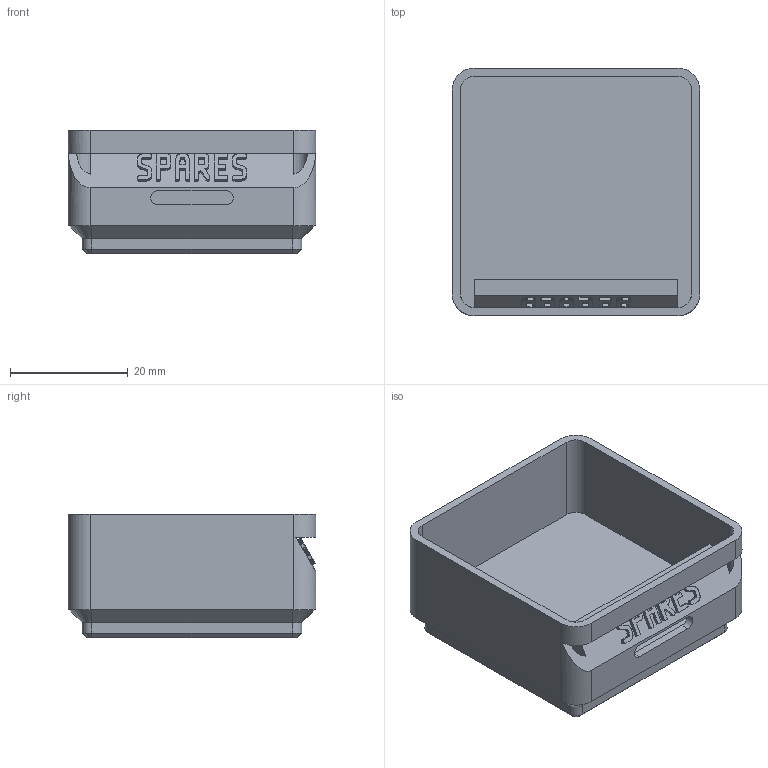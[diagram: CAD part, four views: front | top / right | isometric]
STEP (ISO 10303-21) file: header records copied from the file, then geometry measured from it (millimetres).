
FILE_DESCRIPTION(('Open CASCADE Model'),'2;1');
FILE_NAME('Open CASCADE Shape Model','2026-11-03T17:13:35',('Author'),( 'Open CASCADE'),'Open CASCADE STEP processor 8.0','build123d', 'Unknown');
FILE_SCHEMA(('AUTOMOTIVE_DESIGN { 1 0 10303 214 1 1 1 1 }'));
Length unit declared in the file: millimetre
Products named in the file (1): COMPOUND
Bounding box: 42 x 42 x 21 mm (x, y, z)
Volume: 12850.7 mm3; surface area: 9298.3 mm2
Topology: 1 solids, 1 shells, 678 faces, 1983 edges, 1316 vertices
Faces by surface type: plane 656, cylinder 14, cone 8
Entity records: 46522 total; most frequent: CARTESIAN_POINT 9354, DIRECTION 6009, LINE 4535, VECTOR 4535, ORIENTED_EDGE 3966, PCURVE 3966, DEFINITIONAL_REPRESENTATION 3966, EDGE_CURVE 1983
